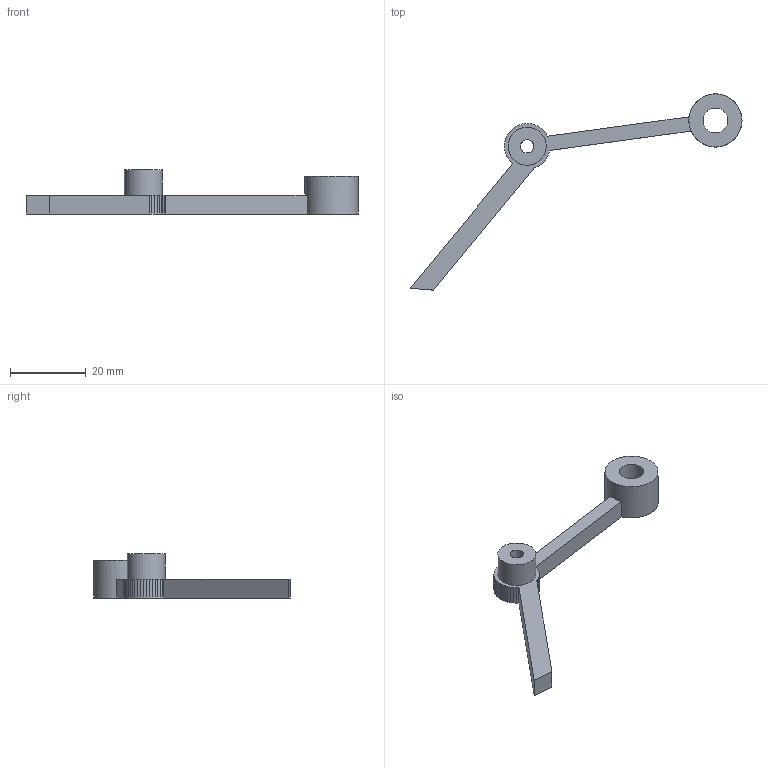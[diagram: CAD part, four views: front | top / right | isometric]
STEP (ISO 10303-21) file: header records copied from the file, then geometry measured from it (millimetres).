
FILE_DESCRIPTION(('Open CASCADE Model'),'2;1');
FILE_NAME('Open CASCADE Shape Model','2026-10-12T22:10:18',('Author'),( 'Open CASCADE'),'Open CASCADE STEP processor 7.9','Open CASCADE 7.9' ,'Unknown');
FILE_SCHEMA(('AUTOMOTIVE_DESIGN { 1 0 10303 214 1 1 1 1 }'));
Length unit declared in the file: millimetre
Products named in the file (1): Open CASCADE STEP translator 7.9 29
Bounding box: 87.4 x 51.67 x 11.6 mm (x, y, z)
Volume: 3923.2 mm3; surface area: 3072.1 mm2
Topology: 1 solids, 1 shells, 50 faces, 183 edges, 136 vertices
Faces by surface type: plane 46, cylinder 4
Full cylindrical faces by diameter (mm): 3.5 x1, 6.5 x1, 10 x1, 14 x1
Entity records: 4556 total; most frequent: CARTESIAN_POINT 1024, DIRECTION 655, LINE 445, VECTOR 445, ORIENTED_EDGE 366, PCURVE 366, DEFINITIONAL_REPRESENTATION 366, EDGE_CURVE 183
